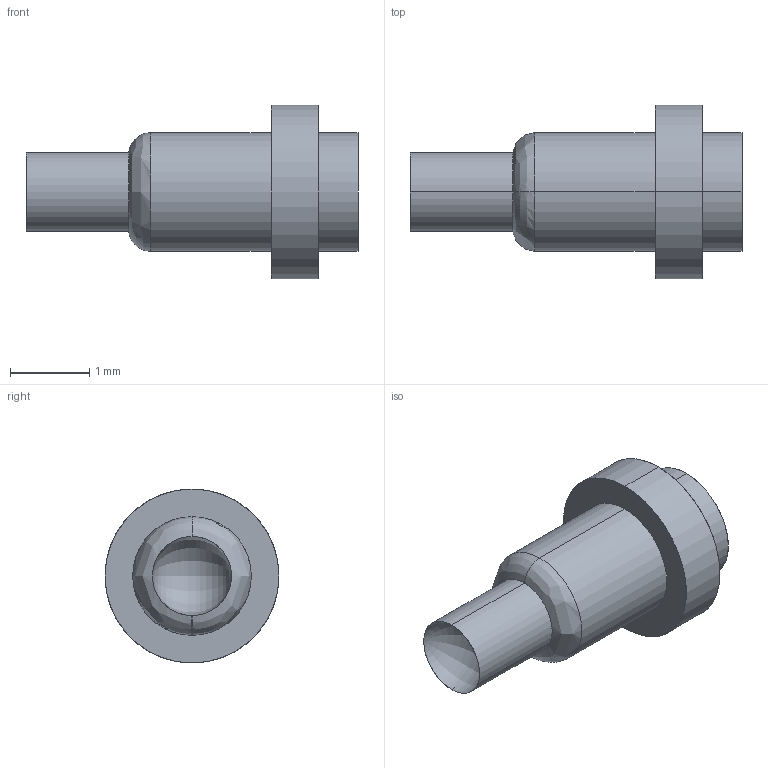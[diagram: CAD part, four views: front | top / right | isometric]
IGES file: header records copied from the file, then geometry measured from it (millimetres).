
Start section: SolidWorks IGES file using analytic representation for surfaces
Global section: file name: \\CODA-VM-SBS\RedirectedFolders\georged\My Documents\CODA FILES NEW\INTERFACING COMPONENTS\PCB TO PCB FITMENT\PD8 SERIES\T SERIES\PD8JST-4.7.IGS; native system: SolidWorks 2022; preprocessor: SolidWorks 2022; author: GeorgeD; date: 230724.102000; units: millimetre
Bounding box: 4.2 x 2.2 x 2.2 mm (x, y, z)
Surface area: 26.9 mm2 (no closed solid volume)
Topology: 0 solids, 0 shells, 14 faces, 158 edges, 156 vertices
Faces by surface type: revolution 9, bspline 5
